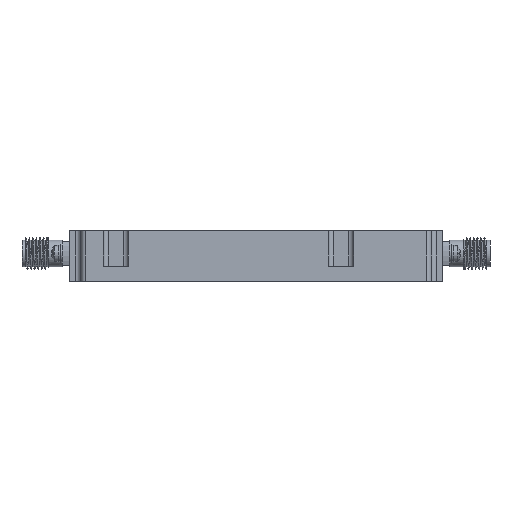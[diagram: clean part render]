
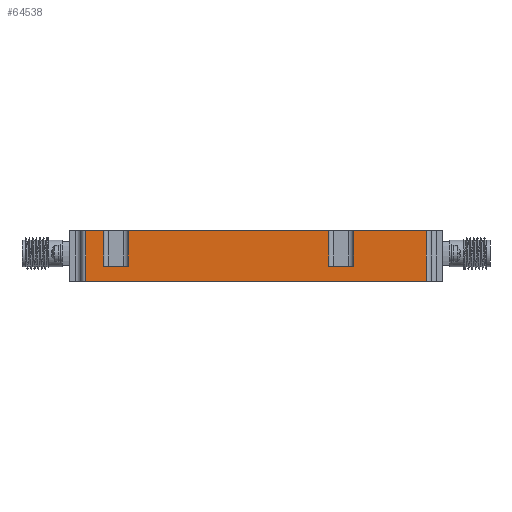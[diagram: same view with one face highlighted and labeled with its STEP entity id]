
A CAD part, front view. The second image highlights one B-rep face of the part: STEP entity #64538.
In plain terms, the highlighted planar face has unit normal (0, -1, 0).
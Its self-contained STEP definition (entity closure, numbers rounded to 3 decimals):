
#523 = EDGE_LOOP ( 'NONE', ( #6298, #2039, #6302, #90276, #109918, #59568, #69240, #82961, #128315, #4224, #8803, #63402 ) ) ;
#582 = EDGE_CURVE ( 'NONE', #48778, #98323, #52710, .T. ) ;
#871 = LINE ( 'NONE', #127466, #78428 ) ;
#1808 = CARTESIAN_POINT ( 'NONE',  ( 106.581, 32.209, 3. ) ) ;
#2039 = ORIENTED_EDGE ( 'NONE', *, *, #14326, .F. ) ;
#3435 = DIRECTION ( 'NONE',  ( -1., 0., 0. ) ) ;
#4051 = CARTESIAN_POINT ( 'NONE',  ( 121.081, 32.209, 10. ) ) ;
#4224 = ORIENTED_EDGE ( 'NONE', *, *, #47837, .F. ) ;
#4508 = DIRECTION ( 'NONE',  ( -1., 0., 0. ) ) ;
#4998 = VECTOR ( 'NONE', #6094, 1000. ) ;
#6094 = DIRECTION ( 'NONE',  ( 1., 0., 0. ) ) ;
#6298 = ORIENTED_EDGE ( 'NONE', *, *, #18358, .T. ) ;
#6302 = ORIENTED_EDGE ( 'NONE', *, *, #115112, .F. ) ;
#8803 = ORIENTED_EDGE ( 'NONE', *, *, #80984, .F. ) ;
#10640 = VERTEX_POINT ( 'NONE', #1808 ) ;
#10873 = DIRECTION ( 'NONE',  ( 0., 1., 0. ) ) ;
#11989 = CARTESIAN_POINT ( 'NONE',  ( 53.081, 32.209, 10. ) ) ;
#12565 = CARTESIAN_POINT ( 'NONE',  ( 121.081, 32.209, 10. ) ) ;
#13221 = CARTESIAN_POINT ( 'NONE',  ( 121.081, 32.209, 3. ) ) ;
#14326 = EDGE_CURVE ( 'NONE', #20417, #10640, #94336, .T. ) ;
#16432 = VERTEX_POINT ( 'NONE', #121587 ) ;
#18358 = EDGE_CURVE ( 'NONE', #76158, #10640, #112981, .T. ) ;
#20417 = VERTEX_POINT ( 'NONE', #72201 ) ;
#20604 = PLANE ( 'NONE',  #53272 ) ;
#21751 = VECTOR ( 'NONE', #43564, 1000. ) ;
#23613 = VERTEX_POINT ( 'NONE', #37428 ) ;
#23897 = DIRECTION ( 'NONE',  ( 0., 0., 1. ) ) ;
#25364 = CARTESIAN_POINT ( 'NONE',  ( 53.081, 32.209, 10. ) ) ;
#25947 = CARTESIAN_POINT ( 'NONE',  ( 121.081, 32.209, 3. ) ) ;
#26675 = LINE ( 'NONE', #25364, #42808 ) ;
#29520 = EDGE_CURVE ( 'NONE', #37733, #98323, #33654, .T. ) ;
#30989 = VERTEX_POINT ( 'NONE', #11989 ) ;
#31449 = VECTOR ( 'NONE', #53399, 1000. ) ;
#33654 = LINE ( 'NONE', #53757, #67543 ) ;
#37428 = CARTESIAN_POINT ( 'NONE',  ( 121.081, 32.209, 10. ) ) ;
#37733 = VERTEX_POINT ( 'NONE', #40508 ) ;
#39850 = DIRECTION ( 'NONE',  ( 0., 0., -1. ) ) ;
#40508 = CARTESIAN_POINT ( 'NONE',  ( 61.581, 32.209, 3. ) ) ;
#40511 = LINE ( 'NONE', #12565, #108309 ) ;
#40737 = FACE_OUTER_BOUND ( 'NONE', #523, .T. ) ;
#41840 = VECTOR ( 'NONE', #128406, 1000. ) ;
#42808 = VECTOR ( 'NONE', #64991, 1000. ) ;
#43564 = DIRECTION ( 'NONE',  ( -1., 0., 0. ) ) ;
#47837 = EDGE_CURVE ( 'NONE', #68469, #16432, #92258, .T. ) ;
#48778 = VERTEX_POINT ( 'NONE', #49056 ) ;
#49056 = CARTESIAN_POINT ( 'NONE',  ( 101.581, 32.209, 10. ) ) ;
#51274 = VECTOR ( 'NONE', #86943, 1000. ) ;
#52710 = LINE ( 'NONE', #4051, #106851 ) ;
#53272 = AXIS2_PLACEMENT_3D ( 'NONE', #60217, #10873, #110809 ) ;
#53399 = DIRECTION ( 'NONE',  ( 0., 0., -1. ) ) ;
#53757 = CARTESIAN_POINT ( 'NONE',  ( 61.581, 32.209, 10. ) ) ;
#58110 = EDGE_CURVE ( 'NONE', #113674, #67166, #88819, .T. ) ;
#59568 = ORIENTED_EDGE ( 'NONE', *, *, #120854, .F. ) ;
#60217 = CARTESIAN_POINT ( 'NONE',  ( 121.081, 32.209, 10. ) ) ;
#60599 = DIRECTION ( 'NONE',  ( -1., 0., 0. ) ) ;
#61288 = LINE ( 'NONE', #83246, #31449 ) ;
#63402 = ORIENTED_EDGE ( 'NONE', *, *, #65371, .T. ) ;
#64538 = ADVANCED_FACE ( 'NONE', ( #40737 ), #20604, .F. ) ;
#64991 = DIRECTION ( 'NONE',  ( 0., 0., 1. ) ) ;
#65371 = EDGE_CURVE ( 'NONE', #23613, #76158, #84964, .T. ) ;
#67166 = VERTEX_POINT ( 'NONE', #128272 ) ;
#67543 = VECTOR ( 'NONE', #23897, 1000. ) ;
#68086 = LINE ( 'NONE', #25947, #51274 ) ;
#68469 = VERTEX_POINT ( 'NONE', #125275 ) ;
#69240 = ORIENTED_EDGE ( 'NONE', *, *, #58110, .F. ) ;
#72201 = CARTESIAN_POINT ( 'NONE',  ( 101.581, 32.209, 3. ) ) ;
#74218 = VECTOR ( 'NONE', #4508, 1000. ) ;
#75211 = CARTESIAN_POINT ( 'NONE',  ( 121.081, 32.209, 10. ) ) ;
#76083 = EDGE_CURVE ( 'NONE', #113674, #30989, #871, .T. ) ;
#76158 = VERTEX_POINT ( 'NONE', #113082 ) ;
#78428 = VECTOR ( 'NONE', #60599, 1000. ) ;
#80984 = EDGE_CURVE ( 'NONE', #23613, #68469, #40511, .T. ) ;
#82917 = CARTESIAN_POINT ( 'NONE',  ( 56.581, 32.209, 10. ) ) ;
#82961 = ORIENTED_EDGE ( 'NONE', *, *, #76083, .T. ) ;
#83246 = CARTESIAN_POINT ( 'NONE',  ( 101.581, 32.209, 10. ) ) ;
#84964 = LINE ( 'NONE', #75211, #74218 ) ;
#86943 = DIRECTION ( 'NONE',  ( 1., 0., 0. ) ) ;
#88819 = LINE ( 'NONE', #89446, #41840 ) ;
#89446 = CARTESIAN_POINT ( 'NONE',  ( 56.581, 32.209, 10. ) ) ;
#90276 = ORIENTED_EDGE ( 'NONE', *, *, #582, .T. ) ;
#92258 = LINE ( 'NONE', #101371, #21751 ) ;
#94336 = LINE ( 'NONE', #13221, #4998 ) ;
#98323 = VERTEX_POINT ( 'NONE', #100213 ) ;
#100213 = CARTESIAN_POINT ( 'NONE',  ( 61.581, 32.209, 10. ) ) ;
#101371 = CARTESIAN_POINT ( 'NONE',  ( 121.081, 32.209, 0. ) ) ;
#103276 = CARTESIAN_POINT ( 'NONE',  ( 106.581, 32.209, 3. ) ) ;
#105173 = DIRECTION ( 'NONE',  ( 0., 0., -1. ) ) ;
#106851 = VECTOR ( 'NONE', #3435, 1000. ) ;
#108309 = VECTOR ( 'NONE', #39850, 1000. ) ;
#108692 = EDGE_CURVE ( 'NONE', #16432, #30989, #26675, .T. ) ;
#109918 = ORIENTED_EDGE ( 'NONE', *, *, #29520, .F. ) ;
#110809 = DIRECTION ( 'NONE',  ( 0., 0., 1. ) ) ;
#112981 = LINE ( 'NONE', #103276, #123359 ) ;
#113082 = CARTESIAN_POINT ( 'NONE',  ( 106.581, 32.209, 10. ) ) ;
#113674 = VERTEX_POINT ( 'NONE', #82917 ) ;
#115112 = EDGE_CURVE ( 'NONE', #48778, #20417, #61288, .T. ) ;
#120854 = EDGE_CURVE ( 'NONE', #67166, #37733, #68086, .T. ) ;
#121587 = CARTESIAN_POINT ( 'NONE',  ( 53.081, 32.209, 0. ) ) ;
#123359 = VECTOR ( 'NONE', #105173, 1000. ) ;
#125275 = CARTESIAN_POINT ( 'NONE',  ( 121.081, 32.209, 0. ) ) ;
#127466 = CARTESIAN_POINT ( 'NONE',  ( 121.081, 32.209, 10. ) ) ;
#128272 = CARTESIAN_POINT ( 'NONE',  ( 56.581, 32.209, 3. ) ) ;
#128315 = ORIENTED_EDGE ( 'NONE', *, *, #108692, .F. ) ;
#128406 = DIRECTION ( 'NONE',  ( 0., 0., -1. ) ) ;
